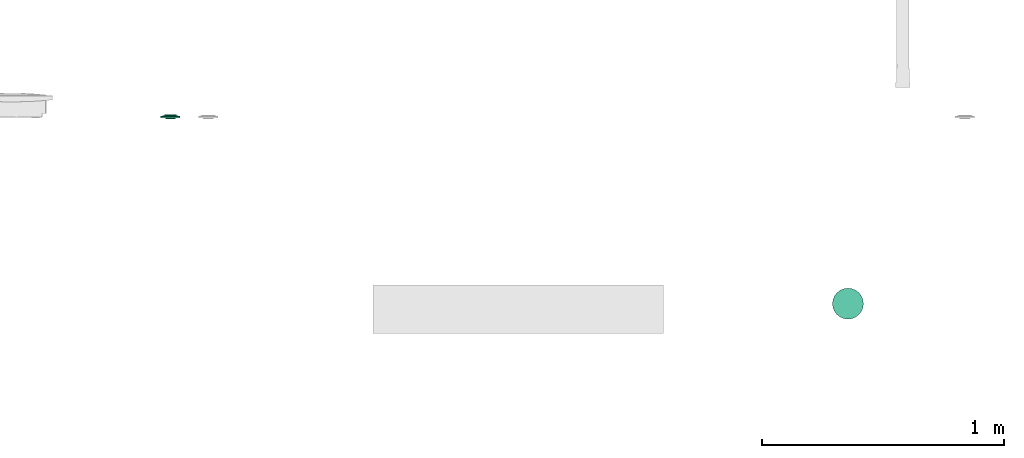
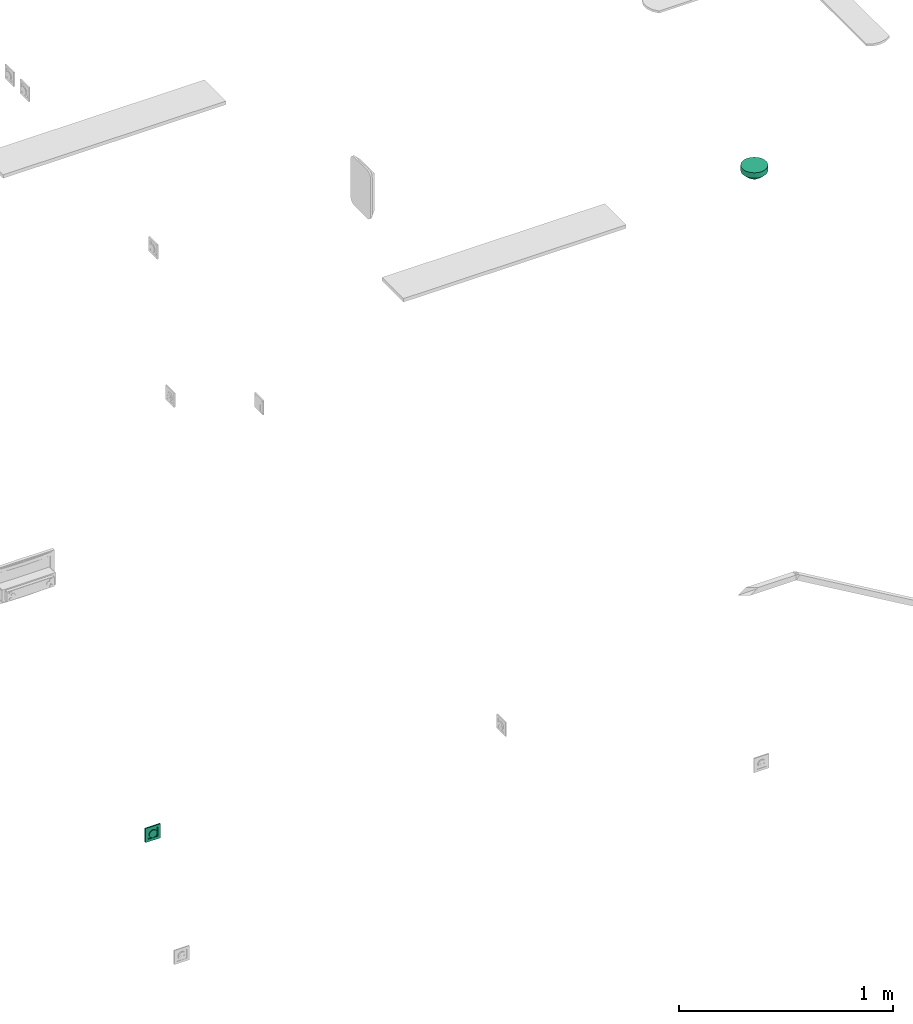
# One storey, part 125 of 153: 2 flow terminals.
"""IFC2X3 building model written with IfcOpenShell, lengths in metres."""

from ifc_helpers import new_model, entity, si_unit, converted_unit, derived_unit, direction, frame, origin, place, context, subcontext, project, spatial, faceted_brep, source, transform, mapped, type_object, type_shapes, element, save


model = new_model("IFC2X3")

# Units and contexts
model_context = context("Model", 3, precision=1e-05, world=origin(), true_north=direction((6.12303176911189e-17, 1.0)))
body_context = subcontext(model_context, "Body", "Model", "MODEL_VIEW")
ifc_project = project(units=[si_unit("LENGTHUNIT", "METRE"), si_unit("AREAUNIT", "SQUARE_METRE"), si_unit("VOLUMEUNIT", "CUBIC_METRE"), converted_unit("PLANEANGLEUNIT", "DEGREE", entity("IfcRatioMeasure", 0.0174532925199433), si_unit("PLANEANGLEUNIT", "RADIAN"), dimensions=[0, 0, 0, 0, 0, 0, 0]), si_unit("MASSUNIT", "GRAM", prefix="KILO"), derived_unit("MASSDENSITYUNIT", [(si_unit("MASSUNIT", "GRAM", prefix="KILO"), 1), (si_unit("LENGTHUNIT", "METRE"), -3)]), si_unit("TIMEUNIT", "SECOND"), si_unit("FREQUENCYUNIT", "HERTZ"), si_unit("THERMODYNAMICTEMPERATUREUNIT", "DEGREE_CELSIUS"), derived_unit("THERMALTRANSMITTANCEUNIT", [(si_unit("MASSUNIT", "GRAM", prefix="KILO"), 1), (si_unit("THERMODYNAMICTEMPERATUREUNIT", "KELVIN"), -1), (si_unit("TIMEUNIT", "SECOND"), -3)]), derived_unit("VOLUMETRICFLOWRATEUNIT", [(si_unit("LENGTHUNIT", "METRE"), 3), (si_unit("TIMEUNIT", "SECOND"), -1)]), si_unit("ELECTRICCURRENTUNIT", "AMPERE"), si_unit("ELECTRICVOLTAGEUNIT", "VOLT"), si_unit("POWERUNIT", "WATT"), si_unit("FORCEUNIT", "NEWTON"), si_unit("ILLUMINANCEUNIT", "LUX"), si_unit("LUMINOUSFLUXUNIT", "LUMEN"), si_unit("LUMINOUSINTENSITYUNIT", "CANDELA"), derived_unit("USERDEFINED", [(si_unit("MASSUNIT", "GRAM", prefix="KILO"), -1), (si_unit("LENGTHUNIT", "METRE"), -2), (si_unit("TIMEUNIT", "SECOND"), 3), (si_unit("LUMINOUSFLUXUNIT", "LUMEN"), 1)]), derived_unit("LINEARVELOCITYUNIT", [(si_unit("LENGTHUNIT", "METRE"), 1), (si_unit("TIMEUNIT", "SECOND"), -1)]), si_unit("PRESSUREUNIT", "PASCAL"), derived_unit("USERDEFINED", [(si_unit("LENGTHUNIT", "METRE"), -2), (si_unit("MASSUNIT", "GRAM", prefix="KILO"), 1), (si_unit("TIMEUNIT", "SECOND"), -2)])], contexts=[model_context])

# Site, building, storey
site_placement = place(None, origin())
site = spatial("IfcSite", under=ifc_project, at=site_placement, Name="Default", CompositionType="ELEMENT")
building_placement = place(site_placement, origin())
building = spatial("IfcBuilding", under=site, at=building_placement, CompositionType="ELEMENT")
storey_placement = place(building_placement, frame((0.0, 0.0, -4.62)))
storey = spatial("IfcBuildingStorey", under=building, at=storey_placement, Name="S02", CompositionType="ELEMENT", Elevation=-4.62)

# Flow terminals
light_fixture_type_1 = type_object("IfcLightFixtureType", Name="Détecteur 360°", PredefinedType="NOTDEFINED")
shared_shape_1 = source(origin(), body_context, "Body", "Brep", [
    faceted_brep([(0.0, -0.0397165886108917, 0.0531256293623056), (0.0, -0.034524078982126, 0.0563702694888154), (-0.0175153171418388, -0.0435914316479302, 0.0478512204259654), (-0.0194029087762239, -0.000878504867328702, 0.0644483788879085), (0.0, 0.0, 0.0669999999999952), (0.0, 0.00603476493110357, 0.0659648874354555), (-0.0174057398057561, -0.0159851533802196, 0.0630502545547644), (-0.0366619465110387, -0.0127227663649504, 0.0549213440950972), (-0.026998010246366, -0.0195753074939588, 0.0584711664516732), (-0.0202403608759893, -0.0335607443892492, 0.054639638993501), (-0.0359767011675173, -0.0348394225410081, 0.0444249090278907), (-0.0276843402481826, -0.0401006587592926, 0.0459804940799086), (-0.0133088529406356, -0.0517577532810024, 0.0400582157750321), (-0.0172617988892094, -0.0486391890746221, 0.042533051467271), (-0.0256912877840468, -0.0533485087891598, 0.0299999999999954), (-0.0462941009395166, -0.0369183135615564, 0.0299999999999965), (0.0, -0.0241390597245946, 0.0628595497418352), (-0.0186245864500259, -0.0267295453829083, 0.0589100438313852), (-0.0139070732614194, -0.0374370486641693, 0.0540817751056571), (0.0, 0.0449090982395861, 0.049880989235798), (-0.0172618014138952, 0.0486391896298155, 0.0425330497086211), (0.0, 0.0397165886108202, 0.0531256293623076), (-0.0186245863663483, 0.0267295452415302, 0.0589100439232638), (-0.0202403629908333, 0.0335607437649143, 0.054639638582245), (-0.0353547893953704, 0.0284533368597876, 0.0494330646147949), (0.0, 0.0120695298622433, 0.0649297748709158), (-0.0249385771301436, 0.0204731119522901, 0.0590841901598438), (-0.0191783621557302, 0.0150189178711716, 0.062775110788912), (-0.0465404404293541, -0.0196510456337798, 0.0438984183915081), (-0.052010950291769, -0.0250471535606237, 0.029999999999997), (-0.0453471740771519, -0.0286501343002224, 0.0397747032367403), (-0.0365036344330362, -0.0226255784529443, 0.0516441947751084), (-0.0175153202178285, 0.0435914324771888, 0.0478512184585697), (-0.0359926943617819, 0.0451334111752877, 0.0299999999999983), (-0.0276843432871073, 0.0401006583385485, 0.0459804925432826), (-0.00849704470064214, -0.0572729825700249, 0.0299999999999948), (0.0, -0.0592123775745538, 0.0299999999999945), (0.0, -0.0545512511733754, 0.0364787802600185), (0.0, -0.049890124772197, 0.0429575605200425), (-0.0169940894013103, -0.055333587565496, 0.0299999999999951), (-0.0359767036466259, 0.0348394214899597, 0.0444249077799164), (-0.025691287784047, 0.0533485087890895, 0.0299999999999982), (-0.0308419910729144, 0.0492409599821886, 0.0299999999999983), (-0.0130265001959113, 0.0514867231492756, 0.040526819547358), (-0.0169940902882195, 0.0553335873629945, 0.029999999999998), (0.0, 0.0498901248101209, 0.0429575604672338), (-0.0353547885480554, -0.0284533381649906, 0.0494330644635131), (0.0, 0.0181042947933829, 0.0638946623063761), (-0.0473669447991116, -0.00128092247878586, 0.0474310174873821), (-0.0485435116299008, -0.00908961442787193, 0.0452357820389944), (-0.0366597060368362, -0.0032867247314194, 0.0563153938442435), (-0.0226425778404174, -0.0107553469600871, 0.0624973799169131), (0.0, -0.00603476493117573, 0.0659648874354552), (0.0, 0.0293315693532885, 0.0596149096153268), (-0.0139070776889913, 0.0374370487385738, 0.0540817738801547), (-0.0449600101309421, 0.018422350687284, 0.0461366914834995), (-0.0453471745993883, 0.0286501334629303, 0.0397747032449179), (-0.0476906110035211, 0.00670602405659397, 0.0466053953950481), (-0.0577277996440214, 0.0131759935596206, 0.0299999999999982), (-0.0577277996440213, 0.00658799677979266, 0.029999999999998), (-0.0577277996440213, 0.0, 0.0299999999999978), (0.0, -0.0449090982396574, 0.0498809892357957), (-0.0308419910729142, -0.049240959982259, 0.0299999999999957), (-0.0359926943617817, -0.0451334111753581, 0.029999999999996), (0.0, 0.0345240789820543, 0.0563702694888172), (-0.0411433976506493, 0.0410258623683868, 0.0299999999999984), (-0.0462941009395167, 0.0369183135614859, 0.0299999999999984), (-0.0491525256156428, -0.03098273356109, 0.0299999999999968), (-0.0577277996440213, -0.0131759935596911, 0.0299999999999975), (0.0, -0.018104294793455, 0.0638946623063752), (-0.0377433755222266, 0.0044838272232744, 0.0554913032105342), (-0.0577277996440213, -0.00658799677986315, 0.0299999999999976), (-0.0385149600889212, 0.0124844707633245, 0.0536578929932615), (-0.0491525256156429, 0.0309827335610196, 0.0299999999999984), (-0.0548693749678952, 0.0191115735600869, 0.0299999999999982), (0.0, 0.0241390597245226, 0.0628595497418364), (-0.014625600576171, 0.0100436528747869, 0.0649170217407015), (-0.0271766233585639, 0.00920278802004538, 0.0609170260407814), (0.0, -0.0120695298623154, 0.0649297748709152), (-0.0520109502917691, 0.0250471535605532, 0.0299999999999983), (-0.0411433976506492, -0.0410258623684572, 0.0299999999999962), (-0.0548693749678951, -0.0191115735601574, 0.0299999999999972), (0.0, -0.0293315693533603, 0.0596149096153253), (0.0, 0.0545512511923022, 0.0364787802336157), (0.0, 0.0592123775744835, 0.0299999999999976), (-0.00849704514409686, 0.057272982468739, 0.0299999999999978), (-0.0127455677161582, 0.0563032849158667, 0.0299999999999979), (-0.0213426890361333, 0.054341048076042, 0.0299999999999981), (0.0175153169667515, 0.0435914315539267, 0.0478512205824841), (0.0194029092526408, 0.000878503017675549, 0.0644483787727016), (0.017405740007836, 0.0159851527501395, 0.0630502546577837), (0.0366619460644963, 0.012722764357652, 0.0549213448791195), (0.0269980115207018, 0.0195753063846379, 0.0584711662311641), (0.0202403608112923, 0.0335607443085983, 0.0546396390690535), (0.0359767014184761, 0.0348394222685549, 0.0444249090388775), (0.0276843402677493, 0.0401006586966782, 0.0459804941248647), (0.0133088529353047, 0.0517577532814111, 0.0400582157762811), (0.0172617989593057, 0.0486391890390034, 0.0425330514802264), (0.0256912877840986, 0.0533485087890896, 0.0299999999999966), (0.0462941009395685, 0.0369183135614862, 0.0299999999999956), (0.00849704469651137, 0.0572729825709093, 0.0299999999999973), (0.0169940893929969, 0.0553335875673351, 0.029999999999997), (0.0172617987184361, -0.0486391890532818, 0.0425330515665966), (0.025691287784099, -0.0533485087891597, 0.0299999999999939), (0.0308419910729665, -0.0492409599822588, 0.0299999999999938), (0.0175153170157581, -0.0435914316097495, 0.0478512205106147), (0.0186245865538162, -0.0267295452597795, 0.0589100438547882), (0.0202403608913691, -0.03356074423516, 0.0546396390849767), (0.0353547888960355, -0.0284533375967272, 0.0494330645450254), (0.0249385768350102, -0.0204731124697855, 0.0590841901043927), (0.0191783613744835, -0.0150189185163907, 0.062775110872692), (0.0465404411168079, 0.0196510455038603, 0.0438984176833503), (0.0577277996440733, 0.0131759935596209, 0.0299999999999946), (0.0548693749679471, 0.0191115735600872, 0.0299999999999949), (0.0520109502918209, 0.0250471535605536, 0.0299999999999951), (0.0365036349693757, 0.0226255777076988, 0.0516441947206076), (0.0186245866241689, 0.0267295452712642, 0.0589100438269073), (0.0359926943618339, -0.0451334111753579, 0.0299999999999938), (0.0276843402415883, -0.0401006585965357, 0.0459804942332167), (0.0139070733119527, 0.0374370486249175, 0.0540817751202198), (0.0359767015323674, -0.0348394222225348, 0.044424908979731), (0.0226425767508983, 0.0107553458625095, 0.0624973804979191), (0.0169940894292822, -0.0553335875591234, 0.0299999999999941), (0.0130264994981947, -0.0514867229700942, 0.0405268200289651), (0.0453471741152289, 0.0286501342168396, 0.039774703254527), (0.0353547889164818, 0.0284533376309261, 0.0494330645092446), (0.0473669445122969, 0.00128092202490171, 0.0474310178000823), (0.0485435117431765, 0.00908961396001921, 0.0452357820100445), (0.0366597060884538, 0.00328672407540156, 0.0563153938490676), (0.0139070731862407, -0.0374370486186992, 0.0540817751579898), (0.0449600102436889, -0.018422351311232, 0.0461366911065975), (0.0453471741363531, -0.0286501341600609, 0.039774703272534), (0.0476906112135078, -0.00670602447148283, 0.046605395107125), (0.0577277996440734, -0.0131759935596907, 0.0299999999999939), (0.0577277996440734, -0.00658799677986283, 0.0299999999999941), (0.0577277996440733, 0.0, 0.0299999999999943), (0.0308419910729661, 0.0492409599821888, 0.0299999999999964), (0.0359926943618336, 0.0451334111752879, 0.0299999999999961), (0.0411433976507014, -0.041025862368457, 0.0299999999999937), (0.0462941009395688, -0.0369183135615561, 0.0299999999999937), (0.0491525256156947, 0.0309827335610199, 0.0299999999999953), (0.037743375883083, -0.00448382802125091, 0.0554913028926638), (0.0577277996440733, 0.00658799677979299, 0.0299999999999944), (0.0385149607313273, -0.0124844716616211, 0.0536578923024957), (0.049152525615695, -0.0309827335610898, 0.0299999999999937), (0.0548693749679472, -0.0191115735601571, 0.0299999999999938), (0.0146256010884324, -0.0100436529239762, 0.0649170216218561), (0.0271766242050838, -0.00920278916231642, 0.0609170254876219), (0.0520109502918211, -0.0250471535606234, 0.0299999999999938), (0.041143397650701, 0.0410258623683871, 0.0299999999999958), (0.00849704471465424, -0.0572729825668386, 0.0299999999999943), (0.0127455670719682, -0.056303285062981, 0.0299999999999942), (0.0213426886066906, -0.0543410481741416, 0.029999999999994), (0.0, 0.0, 0.0299999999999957)], [[[0, 1, 2]], [[3, 4, 5]], [[6, 7, 8]], [[9, 10, 11]], [[12, 13, 14]], [[10, 15, 11]], [[9, 16, 17]], [[18, 9, 11]], [[19, 20, 21]], [[22, 23, 24]], [[25, 26, 27]], [[28, 29, 30]], [[8, 31, 17]], [[32, 33, 34]], [[35, 36, 37, 38, 39]], [[23, 40, 24]], [[20, 41, 42]], [[19, 43, 20]], [[44, 43, 45]], [[20, 32, 21]], [[30, 10, 46]], [[22, 26, 47]], [[48, 49, 50]], [[3, 51, 52]], [[53, 54, 23]], [[55, 24, 56]], [[57, 58, 59, 60]], [[13, 61, 0]], [[13, 0, 2]], [[2, 62, 13]], [[18, 2, 1]], [[2, 11, 63]], [[32, 64, 21]], [[32, 42, 33]], [[34, 33, 65, 66]], [[20, 42, 32]], [[54, 32, 34]], [[28, 30, 31]], [[10, 67, 15]], [[49, 68, 28]], [[8, 17, 69]], [[7, 6, 51]], [[28, 31, 7]], [[57, 48, 70]], [[58, 57, 55]], [[48, 71, 49]], [[70, 48, 50]], [[3, 50, 51]], [[55, 26, 24]], [[72, 57, 70]], [[26, 55, 72]], [[56, 40, 73]], [[56, 74, 55]], [[47, 75, 22]], [[52, 4, 3]], [[7, 50, 49]], [[5, 76, 3]], [[70, 3, 77]], [[51, 78, 52]], [[26, 25, 47]], [[76, 25, 27]], [[23, 22, 75]], [[26, 22, 24]], [[53, 64, 54]], [[23, 34, 40]], [[66, 40, 34]], [[40, 66, 73]], [[56, 73, 79, 74]], [[72, 27, 26]], [[40, 56, 24]], [[23, 75, 53]], [[69, 17, 16]], [[78, 6, 69]], [[46, 10, 9]], [[46, 9, 17]], [[50, 7, 51]], [[30, 29, 67]], [[80, 63, 11, 15]], [[28, 68, 81, 29]], [[10, 30, 67]], [[30, 46, 31]], [[82, 18, 1]], [[82, 16, 9]], [[28, 7, 49]], [[12, 39, 38]], [[61, 13, 12]], [[83, 84, 85, 86, 44, 45]], [[43, 41, 20]], [[44, 87, 41, 43]], [[32, 54, 64]], [[23, 54, 34]], [[9, 18, 82]], [[2, 18, 11]], [[39, 12, 14]], [[38, 61, 12]], [[62, 2, 63]], [[62, 14, 13]], [[17, 31, 46]], [[7, 31, 8]], [[48, 60, 71]], [[71, 68, 49]], [[60, 48, 57]], [[3, 70, 50]], [[72, 70, 77]], [[72, 77, 27]], [[55, 57, 72]], [[74, 58, 55]], [[76, 27, 77]], [[3, 76, 77]], [[25, 76, 5]], [[69, 6, 8]], [[78, 51, 6]], [[45, 43, 19]], [[21, 64, 88]], [[89, 4, 52]], [[90, 91, 92]], [[93, 94, 95]], [[96, 97, 98]], [[94, 99, 95]], [[100, 84, 83, 45, 101]], [[102, 103, 104]], [[102, 105, 0]], [[106, 107, 108]], [[78, 109, 110]], [[111, 112, 113, 114]], [[92, 115, 116]], [[105, 117, 118]], [[119, 93, 95]], [[107, 120, 108]], [[89, 121, 5]], [[122, 123, 38]], [[61, 123, 102]], [[93, 75, 116]], [[124, 94, 125]], [[106, 109, 69]], [[126, 127, 128]], [[61, 102, 0]], [[82, 129, 107]], [[130, 108, 131]], [[132, 133, 134, 135]], [[97, 19, 21]], [[97, 21, 88]], [[88, 136, 97]], [[119, 88, 64]], [[88, 95, 137]], [[105, 1, 0]], [[105, 104, 117]], [[118, 117, 138, 139]], [[102, 104, 105]], [[129, 105, 118]], [[111, 124, 115]], [[94, 140, 99]], [[127, 112, 111]], [[92, 116, 47]], [[91, 90, 121]], [[111, 115, 91]], [[132, 126, 141]], [[133, 132, 130]], [[126, 142, 127]], [[141, 126, 128]], [[89, 128, 121]], [[130, 109, 108]], [[143, 132, 141]], [[109, 130, 143]], [[131, 120, 144]], [[131, 145, 130]], [[69, 16, 106]], [[5, 4, 89]], [[91, 128, 127]], [[52, 146, 89]], [[141, 89, 147]], [[121, 25, 5]], [[109, 78, 69]], [[146, 78, 110]], [[107, 106, 16]], [[109, 106, 108]], [[82, 1, 129]], [[107, 118, 120]], [[139, 120, 118]], [[120, 139, 144]], [[131, 144, 148, 145]], [[143, 110, 109]], [[120, 131, 108]], [[107, 16, 82]], [[47, 116, 75]], [[25, 90, 47]], [[125, 94, 93]], [[125, 93, 116]], [[128, 91, 121]], [[124, 114, 140]], [[149, 137, 95, 99]], [[111, 114, 124]], [[94, 124, 140]], [[124, 125, 115]], [[53, 119, 64]], [[53, 75, 93]], [[111, 91, 127]], [[96, 101, 45]], [[19, 97, 96]], [[37, 36, 150, 151, 122, 38]], [[123, 103, 102]], [[122, 152, 103, 123]], [[105, 129, 1]], [[107, 129, 118]], [[93, 119, 53]], [[88, 119, 95]], [[101, 96, 98]], [[45, 19, 96]], [[136, 88, 137]], [[136, 98, 97]], [[116, 115, 125]], [[91, 115, 92]], [[126, 135, 142]], [[142, 112, 127]], [[135, 126, 132]], [[89, 141, 128]], [[143, 141, 147]], [[143, 147, 110]], [[130, 132, 143]], [[145, 133, 130]], [[146, 110, 147]], [[89, 146, 147]], [[78, 146, 52]], [[47, 90, 92]], [[25, 121, 90]], [[38, 123, 61]], [[153, 66, 65]], [[153, 65, 33]], [[153, 33, 42]], [[153, 42, 41]], [[153, 41, 87]], [[153, 73, 66]], [[153, 79, 73]], [[153, 74, 79]], [[153, 58, 74]], [[153, 87, 44]], [[153, 44, 86]], [[153, 86, 85]], [[153, 85, 84]], [[153, 84, 100]], [[153, 59, 58]], [[153, 60, 59]], [[153, 71, 60]], [[153, 68, 71]], [[153, 81, 68]], [[153, 29, 81]], [[153, 67, 29]], [[153, 15, 67]], [[153, 80, 15]], [[153, 63, 80]], [[153, 62, 63]], [[153, 14, 62]], [[153, 39, 14]], [[153, 35, 39]], [[153, 36, 35]], [[153, 100, 101]], [[153, 101, 98]], [[153, 98, 136]], [[153, 136, 137]], [[153, 137, 149]], [[153, 149, 99]], [[153, 99, 140]], [[153, 140, 114]], [[153, 114, 113]], [[153, 113, 112]], [[153, 112, 142]], [[153, 150, 36]], [[153, 151, 150]], [[153, 122, 151]], [[153, 152, 122]], [[153, 103, 152]], [[153, 104, 103]], [[153, 117, 104]], [[153, 138, 117]], [[153, 139, 138]], [[153, 144, 139]], [[153, 148, 144]], [[153, 145, 148]], [[153, 133, 145]], [[153, 142, 135]], [[153, 135, 134]], [[153, 134, 133]]]),
    faceted_brep([(0.0165644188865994, -0.0618192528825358, 0.029999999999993), (0.0320000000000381, -0.0554256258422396, 0.0299999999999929), (0.0452548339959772, -0.0452548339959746, 0.0299999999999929), (0.0554256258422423, -0.0320000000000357, 0.029999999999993), (0.0618192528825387, -0.016564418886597, 0.0299999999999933), (0.0640000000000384, 0.0, 0.0299999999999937), (0.0618192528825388, 0.016564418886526, 0.0299999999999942), (0.0554256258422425, 0.0319999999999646, 0.0299999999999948), (0.0452548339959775, 0.0452548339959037, 0.0299999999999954), (0.0320000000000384, 0.0554256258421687, 0.0299999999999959), (0.0165644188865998, 0.061819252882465, 0.0299999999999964), (0.0, 0.0639999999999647, 0.0299999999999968), (-0.0165644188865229, 0.061819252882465, 0.0299999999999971), (-0.0319999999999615, 0.0554256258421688, 0.0299999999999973), (-0.0452548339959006, 0.0452548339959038, 0.0299999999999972), (-0.0554256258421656, 0.0319999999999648, 0.0299999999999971), (-0.0618192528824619, 0.0165644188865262, 0.0299999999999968), (-0.0639999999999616, 0.0, 0.0299999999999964), (-0.061819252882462, -0.0165644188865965, 0.0299999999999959), (-0.0554256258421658, -0.0320000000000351, 0.0299999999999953), (-0.0452548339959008, -0.0452548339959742, 0.0299999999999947), (-0.0319999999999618, -0.0554256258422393, 0.0299999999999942), (-0.0165644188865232, -0.0618192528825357, 0.0299999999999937), (0.0, -0.0640000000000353, 0.0299999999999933), (0.0165644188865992, 0.0618192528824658, 0.0), (0.0320000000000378, 0.0554256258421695, 0.0), (0.0452548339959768, 0.0452548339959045, 0.0), (0.0554256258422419, 0.0319999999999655, 0.0), (0.0618192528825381, 0.0165644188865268, 0.0), (0.0640000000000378, 0.0, 0.0), (0.061819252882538, -0.0165644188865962, 0.0), (0.0554256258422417, -0.0320000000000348, 0.0), (0.0452548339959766, -0.0452548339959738, 0.0), (0.0320000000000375, -0.0554256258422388, 0.0), (0.0165644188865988, -0.061819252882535, 0.0), (0.0, -0.0640000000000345, 0.0), (-0.0165644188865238, -0.0618192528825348, 0.0), (-0.0319999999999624, -0.0554256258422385, 0.0), (-0.0452548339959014, -0.0452548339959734, 0.0), (-0.0554256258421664, -0.0320000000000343, 0.0), (-0.0618192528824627, -0.0165644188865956, 0.0), (-0.0639999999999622, 0.0, 0.0), (-0.0618192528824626, 0.016564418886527, 0.0), (-0.0554256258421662, 0.0319999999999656, 0.0), (-0.0452548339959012, 0.0452548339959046, 0.0), (-0.0319999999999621, 0.0554256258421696, 0.0), (-0.0165644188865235, 0.0618192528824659, 0.0), (0.0, 0.0639999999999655, 0.0)], [[[0, 1, 2, 3, 4, 5, 6, 7, 8, 9, 10, 11, 12, 13, 14, 15, 16, 17, 18, 19, 20, 21, 22, 23]], [[24, 25, 26, 27, 28, 29, 30, 31, 32, 33, 34, 35, 36, 37, 38, 39, 40, 41, 42, 43, 44, 45, 46, 47]], [[40, 18, 17, 41]], [[39, 19, 18, 40]], [[21, 20, 38, 37]], [[39, 38, 20, 19]], [[22, 21, 37, 36]], [[23, 22, 36, 35]], [[34, 0, 23, 35]], [[33, 1, 0, 34]], [[3, 2, 32, 31]], [[33, 32, 2, 1]], [[4, 3, 31, 30]], [[5, 4, 30, 29]], [[28, 6, 5, 29]], [[27, 7, 6, 28]], [[9, 8, 26, 25]], [[27, 26, 8, 7]], [[10, 9, 25, 24]], [[11, 10, 24, 47]], [[46, 12, 11, 47]], [[45, 13, 12, 46]], [[42, 41, 17, 16]], [[44, 14, 13, 45]], [[43, 15, 14, 44]], [[43, 42, 16, 15]]]),
])
type_shapes(light_fixture_type_1, [shared_shape_1])
flow_terminal_1_placement = place(storey_placement, frame((62.0067436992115, -194.027320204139, 4.175), z_axis=(0.0, 0.0, -1.0), x_axis=(1.0, 0.0, 0.0)))
element("IfcFlowTerminal", 1, at=flow_terminal_1_placement, inside=storey, type_object=light_fixture_type_1, Name="INT - Détecteur 360°:Détecteur 360°", ObjectType="INT - Détecteur 360°:Détecteur 360°", context=body_context, shape_type="MappedRepresentation", body=[
    mapped(shared_shape_1, transform((0.0, 0.0, 0.0), scale=1.0)),
])
light_fixture_type_2 = type_object("IfcLightFixtureType", Name="VV IP21", PredefinedType="NOTDEFINED")
shared_shape_2 = source(origin(), body_context, "Body", "Brep", [
    faceted_brep([(0.0, 0.0209999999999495, -0.00460000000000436), (0.00543519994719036, 0.02028444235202, -0.00460000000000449), (0.0105000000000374, 0.0181865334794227, -0.00460000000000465), (0.0148492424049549, 0.014849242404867, -0.00460000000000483), (0.0181865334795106, 0.0104999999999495, -0.00460000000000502), (0.0202844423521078, 0.00543519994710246, -0.00460000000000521), (0.0210000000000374, 0.0, -0.00460000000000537), (0.0202844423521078, -0.00543519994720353, -0.00460000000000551), (0.0181865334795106, -0.0105000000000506, -0.0046000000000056), (0.0148492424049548, -0.0148492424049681, -0.00460000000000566), (0.0105000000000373, -0.0181865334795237, -0.00460000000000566), (0.00543519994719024, -0.0202844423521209, -0.00460000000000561), (0.0, -0.0210000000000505, -0.00460000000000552), (-0.00543519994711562, -0.0202844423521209, -0.00460000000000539), (-0.0104999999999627, -0.0181865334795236, -0.00460000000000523), (-0.0148492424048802, -0.0148492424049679, -0.00460000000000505), (-0.0181865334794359, -0.0105000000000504, -0.00460000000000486), (-0.0202844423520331, -0.00543519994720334, -0.00460000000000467), (-0.0209999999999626, 0.0, -0.00460000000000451), (-0.020284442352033, 0.00543519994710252, -0.00460000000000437), (-0.0181865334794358, 0.0104999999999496, -0.00460000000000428), (-0.0148492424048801, 0.0148492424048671, -0.00460000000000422), (-0.0104999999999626, 0.0181865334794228, -0.00460000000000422), (-0.00543519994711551, 0.02028444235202, -0.00460000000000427), (-0.020284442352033, -0.00543519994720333, 0.0), (-0.0209999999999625, 0.0, 0.0), (-0.0181865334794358, -0.0105000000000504, 0.0), (-0.0104999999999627, -0.0181865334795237, 0.0), (-0.0148492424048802, -0.0148492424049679, 0.0), (-0.00543519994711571, -0.020284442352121, 0.0), (0.0, -0.0210000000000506, 0.0), (0.00543519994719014, -0.0202844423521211, 0.0), (0.0105000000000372, -0.018186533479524, 0.0), (0.0181865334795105, -0.0105000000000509, 0.0), (0.0148492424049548, -0.0148492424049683, 0.0), (0.0202844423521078, -0.00543519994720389, 0.0), (0.0210000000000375, 0.0, 0.0), (0.0202844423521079, 0.00543519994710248, 0.0), (0.0181865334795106, 0.0104999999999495, 0.0), (0.0105000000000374, 0.0181865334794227, 0.0), (0.0148492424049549, 0.014849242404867, 0.0), (0.00543519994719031, 0.0202844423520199, 0.0), (0.0, 0.0209999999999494, 0.0), (-0.00543519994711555, 0.0202844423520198, 0.0), (-0.0104999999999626, 0.0181865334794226, 0.0), (-0.0181865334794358, 0.0104999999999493, 0.0), (-0.0148492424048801, 0.0148492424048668, 0.0), (-0.020284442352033, 0.00543519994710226, 0.0)], [[[0, 1, 2, 3, 4, 5, 6, 7, 8, 9, 10, 11, 12, 13, 14, 15, 16, 17, 18, 19, 20, 21, 22, 23]], [[17, 24, 25, 18]], [[16, 26, 24, 17]], [[27, 28, 15, 14]], [[16, 15, 28, 26]], [[29, 27, 14, 13]], [[30, 29, 13, 12]], [[11, 31, 30, 12]], [[10, 32, 31, 11]], [[33, 34, 9, 8]], [[10, 9, 34, 32]], [[35, 33, 8, 7]], [[36, 35, 7, 6]], [[5, 37, 36, 6]], [[4, 38, 37, 5]], [[39, 40, 3, 2]], [[4, 3, 40, 38]], [[41, 39, 2, 1]], [[42, 41, 1, 0]], [[23, 43, 42, 0]], [[22, 44, 43, 23]], [[45, 46, 21, 20]], [[22, 21, 46, 44]], [[47, 45, 20, 19]], [[25, 47, 19, 18]], [[25, 24, 26, 28, 27, 29, 30, 31, 32, 34, 33, 35, 36, 37, 38, 40, 39, 41, 42, 43, 44, 46, 45, 47]]]),
    faceted_brep([(0.0270000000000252, 0.026999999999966, 0.0103999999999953), (-0.0269999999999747, 0.026999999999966, 0.0103999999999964), (-0.0269999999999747, -0.0270000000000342, 0.0103999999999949), (0.0270000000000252, -0.0270000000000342, 0.0103999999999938), (-0.0254999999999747, 0.0258096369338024, 0.0103999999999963), (0.0255000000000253, 0.0258096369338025, 0.0103999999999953), (0.0255000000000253, -0.0255000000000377, 0.0103999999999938), (-0.0254999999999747, -0.0255000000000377, 0.0103999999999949), (0.0270000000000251, 0.0269999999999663, 0.00199999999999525), (0.0270000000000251, -0.0270000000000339, 0.00199999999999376), (-0.0269999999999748, -0.0270000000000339, 0.00199999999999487), (-0.0269999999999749, 0.0269999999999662, 0.00199999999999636), (0.0255000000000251, 0.0258096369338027, 0.00199999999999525), (-0.0254999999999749, 0.0258096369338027, 0.0019999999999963), (-0.0254999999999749, -0.0255000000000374, 0.00199999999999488), (0.0255000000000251, -0.0255000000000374, 0.00199999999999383)], [[[0, 1, 2, 3], [4, 5, 6, 7]], [[8, 9, 10, 11], [12, 13, 14, 15]], [[1, 0, 8, 11]], [[2, 1, 11, 10]], [[3, 2, 10, 9]], [[0, 3, 9, 8]], [[12, 5, 4, 13]], [[13, 4, 7, 14]], [[14, 7, 6, 15]], [[5, 12, 15, 6]]]),
    faceted_brep([(0.0250000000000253, 0.0253096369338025, 0.00659999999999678), (0.0250000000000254, 0.0253096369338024, 0.0117095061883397), (0.0250000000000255, -0.0245000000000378, 0.0142232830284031), (0.0250000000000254, -0.0250000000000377, 0.0117095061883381), (0.0250000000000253, -0.0250000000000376, 0.00659999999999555), (-0.0249999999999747, 0.0253096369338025, 0.00659999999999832), (-0.0249999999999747, -0.0250000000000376, 0.00659999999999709), (-0.0249999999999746, -0.0250000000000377, 0.0117095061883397), (-0.0249999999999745, -0.0245000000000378, 0.0142232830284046), (-0.0249999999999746, 0.0253096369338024, 0.0117095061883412)], [[[0, 1, 2, 3, 4]], [[5, 6, 7, 8, 9]], [[1, 0, 5, 9]], [[2, 1, 9, 8]], [[3, 2, 8, 7]], [[4, 3, 7, 6]], [[0, 4, 6, 5]]]),
    faceted_brep([(0.027000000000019, 0.0269999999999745, 0.00659999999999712), (-0.0269999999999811, 0.0269999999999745, 0.00659999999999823), (-0.026999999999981, -0.0270000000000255, 0.00659999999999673), (0.027000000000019, -0.0270000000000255, 0.00659999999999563), (0.040350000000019, 0.0403499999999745, 0.00659999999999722), (0.040350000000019, -0.0403500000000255, 0.00659999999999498), (-0.0403499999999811, -0.0403500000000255, 0.00659999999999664), (-0.0403499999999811, 0.0403499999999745, 0.00659999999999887), (-0.026999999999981, 0.0269999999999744, 0.0103999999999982), (0.027000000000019, 0.0269999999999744, 0.0103999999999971), (-0.026999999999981, -0.0270000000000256, 0.0103999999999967), (0.027000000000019, -0.0270000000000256, 0.0103999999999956)], [[[0, 1, 2, 3], [4, 5, 6, 7]], [[4, 7, 8, 9]], [[7, 6, 10, 8]], [[6, 5, 11, 10]], [[5, 4, 9, 11]], [[0, 9, 8, 1]], [[1, 8, 10, 2]], [[2, 10, 11, 3]], [[9, 0, 3, 11]]], outer=[[False, True], [True], [True], [True], [True], [True], [True], [True], [True]]),
    faceted_brep([(0.040350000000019, 0.0403499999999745, 0.00659999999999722), (-0.0403499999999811, 0.0403499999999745, 0.00659999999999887), (-0.0403499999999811, -0.0403500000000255, 0.00659999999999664), (0.040350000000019, -0.0403500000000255, 0.00659999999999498), (-0.0269999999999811, 0.0269999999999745, 0.00659999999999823), (0.0270000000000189, 0.0269999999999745, 0.00659999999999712), (0.0270000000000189, -0.0270000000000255, 0.00659999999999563), (-0.0269999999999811, -0.0270000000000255, 0.00659999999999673), (0.0403500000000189, 0.0403499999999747, 0.0), (0.0403500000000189, -0.0403500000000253, 0.0), (-0.0403499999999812, -0.0403500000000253, 0.0), (-0.0403499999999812, 0.0403499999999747, 0.0), (0.0270000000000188, 0.0269999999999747, 0.0), (-0.0269999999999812, 0.0269999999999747, 0.0), (-0.0269999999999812, -0.0270000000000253, 0.0), (0.0270000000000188, -0.0270000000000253, 0.0)], [[[0, 1, 2, 3], [4, 5, 6, 7]], [[8, 9, 10, 11], [12, 13, 14, 15]], [[1, 0, 8, 11]], [[2, 1, 11, 10]], [[3, 2, 10, 9]], [[0, 3, 9, 8]], [[12, 5, 4, 13]], [[13, 4, 7, 14]], [[14, 7, 6, 15]], [[5, 12, 15, 6]]]),
])
type_shapes(light_fixture_type_2, [shared_shape_2])
flow_terminal_2_placement = place(storey_placement, frame((59.2070072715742, -193.259651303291, 0.880000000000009), z_axis=(0.0, 1.0, 0.0), x_axis=(-1.0, 0.0, 0.0)))
element("IfcFlowTerminal", 2, at=flow_terminal_2_placement, inside=storey, type_object=light_fixture_type_2, Name="INT_Inter VV:VV IP21", ObjectType="INT_Inter VV:VV IP21", context=body_context, shape_type="MappedRepresentation", body=[
    mapped(shared_shape_2, transform((0.0, 0.0, 0.0), scale=1.0)),
])

save(model, "model.ifc")
